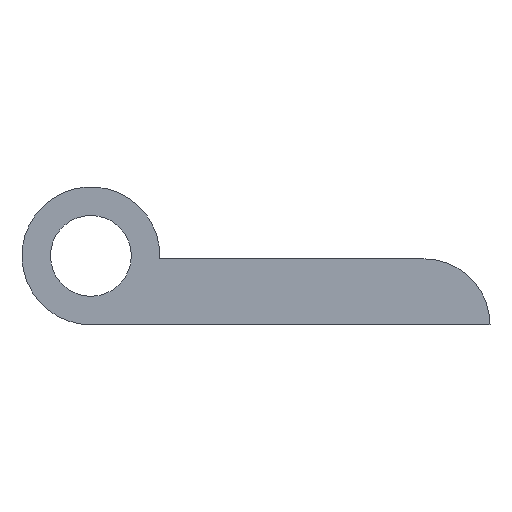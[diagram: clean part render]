
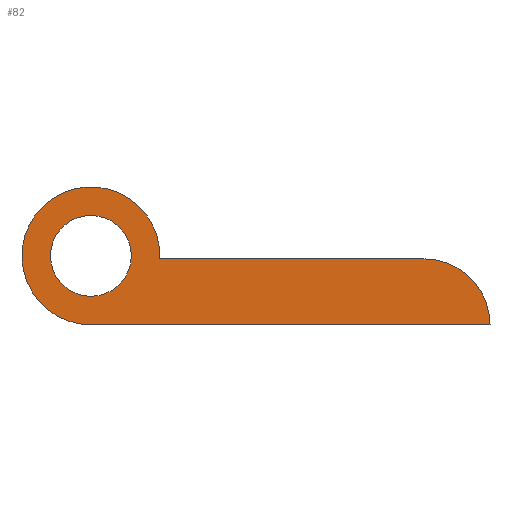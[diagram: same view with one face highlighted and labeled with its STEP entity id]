
A CAD part, front view. The second image highlights one B-rep face of the part: STEP entity #82.
In plain terms, the highlighted planar face has unit normal (0, -1, 0).
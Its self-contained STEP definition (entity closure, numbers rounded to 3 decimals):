
#82 = ADVANCED_FACE ( 'NONE', ( #2652, #2657 ), #2795, .F. ) ;
#254 = VERTEX_POINT ( 'NONE', #3355 ) ;
#255 = VERTEX_POINT ( 'NONE', #3356 ) ;
#529 = EDGE_LOOP ( 'NONE', ( #586, #587 ) ) ;
#542 = EDGE_LOOP ( 'NONE', ( #582, #583, #584, #585 ) ) ;
#582 = ORIENTED_EDGE ( 'NONE', *, *, #682, .F. ) ;
#583 = ORIENTED_EDGE ( 'NONE', *, *, #657, .F. ) ;
#584 = ORIENTED_EDGE ( 'NONE', *, *, #658, .F. ) ;
#585 = ORIENTED_EDGE ( 'NONE', *, *, #659, .F. ) ;
#586 = ORIENTED_EDGE ( 'NONE', *, *, #816, .T. ) ;
#587 = ORIENTED_EDGE ( 'NONE', *, *, #660, .T. ) ;
#657 = EDGE_CURVE ( 'NONE', #727, #732, #3248, .T. ) ;
#658 = EDGE_CURVE ( 'NONE', #737, #727, #3254, .T. ) ;
#659 = EDGE_CURVE ( 'NONE', #724, #737, #3256, .T. ) ;
#660 = EDGE_CURVE ( 'NONE', #255, #254, #3693, .T. ) ;
#682 = EDGE_CURVE ( 'NONE', #732, #724, #3725, .T. ) ;
#724 = VERTEX_POINT ( 'NONE', #3931 ) ;
#727 = VERTEX_POINT ( 'NONE', #3927 ) ;
#732 = VERTEX_POINT ( 'NONE', #3937 ) ;
#737 = VERTEX_POINT ( 'NONE', #3942 ) ;
#816 = EDGE_CURVE ( 'NONE', #254, #255, #3763, .T. ) ;
#2288 = VECTOR ( 'NONE', #3680, 1000. ) ;
#2364 = AXIS2_PLACEMENT_3D ( 'NONE', #2794, #2799, #2800 ) ;
#2522 = AXIS2_PLACEMENT_3D ( 'NONE', #3683, #3684, #3685 ) ;
#2523 = AXIS2_PLACEMENT_3D ( 'NONE', #3687, #3688, #3689 ) ;
#2535 = AXIS2_PLACEMENT_3D ( 'NONE', #3889, #3890, #3891 ) ;
#2548 = AXIS2_PLACEMENT_3D ( 'NONE', #4011, #4012, #4013 ) ;
#2652 = FACE_OUTER_BOUND ( 'NONE', #542, .T. ) ;
#2657 = FACE_BOUND ( 'NONE', #529, .T. ) ;
#2794 = CARTESIAN_POINT ( 'NONE',  ( 0., 0., 0. ) ) ;
#2795 = PLANE ( 'NONE',  #2364 ) ;
#2799 = DIRECTION ( 'NONE',  ( 0., 1., 0. ) ) ;
#2800 = DIRECTION ( 'NONE',  ( 0., 0., 1. ) ) ;
#3248 = LINE ( 'NONE', #3673, #3257 ) ;
#3254 = CIRCLE ( 'NONE', #2522, 6.7 ) ;
#3256 = LINE ( 'NONE', #3682, #2288 ) ;
#3257 = VECTOR ( 'NONE', #3679, 1000. ) ;
#3355 = CARTESIAN_POINT ( 'NONE',  ( 0., 0., -4.1 ) ) ;
#3356 = CARTESIAN_POINT ( 'NONE',  ( 0., 0., 4.1 ) ) ;
#3673 = CARTESIAN_POINT ( 'NONE',  ( 0., 0., -7. ) ) ;
#3679 = DIRECTION ( 'NONE',  ( -1., 0., 0. ) ) ;
#3680 = DIRECTION ( 'NONE',  ( 1., 0., 0. ) ) ;
#3682 = CARTESIAN_POINT ( 'NONE',  ( 33.8, 0., -0.3 ) ) ;
#3683 = CARTESIAN_POINT ( 'NONE',  ( 33.8, 0., -7. ) ) ;
#3684 = DIRECTION ( 'NONE',  ( 0., 1., 0. ) ) ;
#3685 = DIRECTION ( 'NONE',  ( 0., 0., -1. ) ) ;
#3687 = CARTESIAN_POINT ( 'NONE',  ( 0., 0., 0. ) ) ;
#3688 = DIRECTION ( 'NONE',  ( 0., 1., 0. ) ) ;
#3689 = DIRECTION ( 'NONE',  ( 0., 0., 1. ) ) ;
#3693 = CIRCLE ( 'NONE', #2523, 4.1 ) ;
#3725 = CIRCLE ( 'NONE', #2535, 7. ) ;
#3763 = CIRCLE ( 'NONE', #2548, 4.1 ) ;
#3889 = CARTESIAN_POINT ( 'NONE',  ( 0., 0., 0. ) ) ;
#3890 = DIRECTION ( 'NONE',  ( 0., 1., 0. ) ) ;
#3891 = DIRECTION ( 'NONE',  ( 0., 0., 1. ) ) ;
#3927 = CARTESIAN_POINT ( 'NONE',  ( 40.5, 0., -7. ) ) ;
#3931 = CARTESIAN_POINT ( 'NONE',  ( 6.994, 0., -0.3 ) ) ;
#3937 = CARTESIAN_POINT ( 'NONE',  ( 0., 0., -7. ) ) ;
#3942 = CARTESIAN_POINT ( 'NONE',  ( 33.8, 0., -0.3 ) ) ;
#4011 = CARTESIAN_POINT ( 'NONE',  ( 0., 0., 0. ) ) ;
#4012 = DIRECTION ( 'NONE',  ( 0., 1., 0. ) ) ;
#4013 = DIRECTION ( 'NONE',  ( 0., 0., 1. ) ) ;
